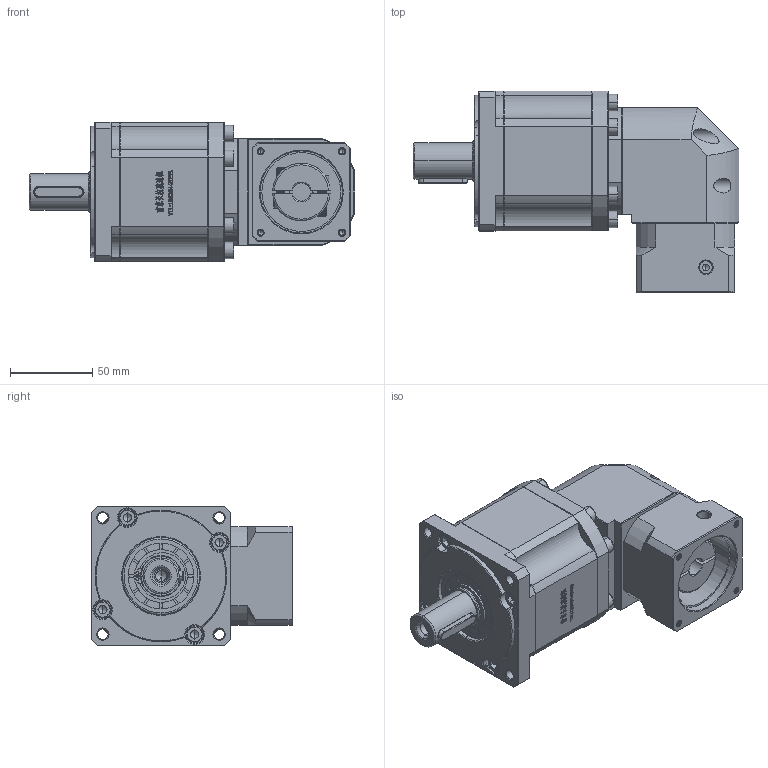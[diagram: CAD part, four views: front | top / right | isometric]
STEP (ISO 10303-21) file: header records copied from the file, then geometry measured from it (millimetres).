
FILE_DESCRIPTION (( 'STEP AP214' ), '1' );
FILE_NAME ('ZBR90-D22-L3-11-50-70-M4.step', '2022-05-07T15:21:17', ( '' ), ( 'Microsoft' ), 'SwSTEP 2.0', 'SolidWorks 2016', '' );
FILE_SCHEMA (( 'AUTOMOTIVE_DESIGN' ));
Length unit declared in the file: millimetre
Products named in the file (1): ZBR90-D22-L3-11-50-70-M4
Bounding box: 198 x 122.7 x 85 mm (x, y, z)
Volume: 923900.6 mm3; surface area: 105314.7 mm2
Topology: 5 solids, 5 shells, 3031 faces, 8138 edges, 5251 vertices
Faces by surface type: plane 1598, bspline 608, cylinder 437, cone 368, torus 20
Entity records: 161097 total; most frequent: CARTESIAN_POINT 56438, ORIENTED_EDGE 16184, DIRECTION 12491, EDGE_CURVE 8092, LINE 5329, VECTOR 5329, VERTEX_POINT 5251, AXIS2_PLACEMENT_3D 3581
